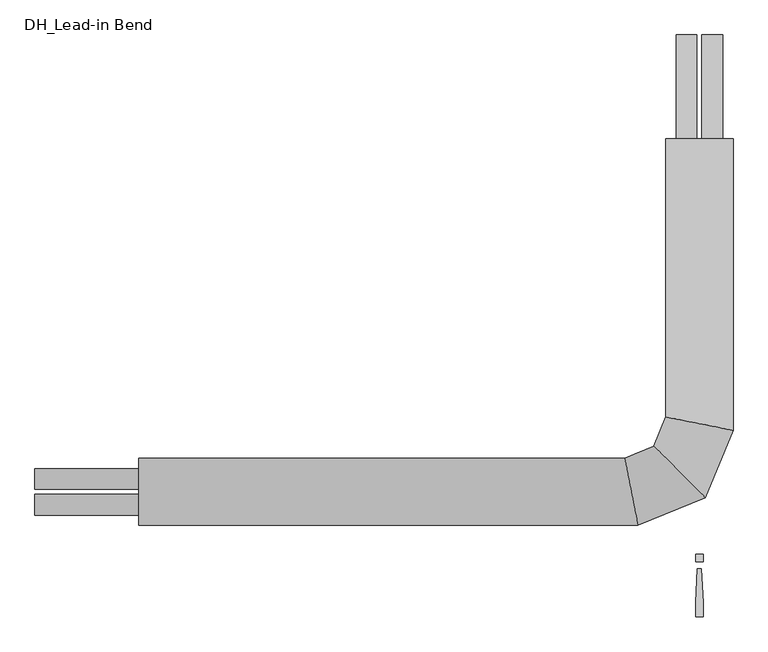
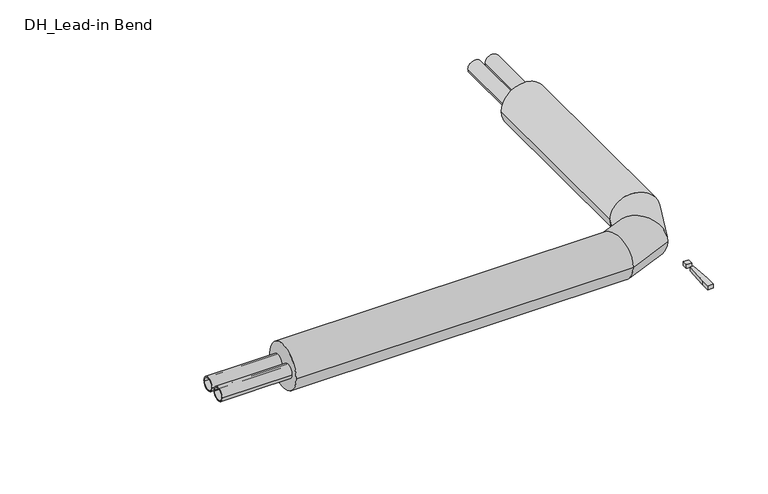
"""IFC4 building model written with IfcOpenShell, lengths in millimetres: pipe fitting geometry, DH_Lead-in Bend : RVT/RVX/RTX DUO 11 Heating Vertical."""

from ifc_helpers import new_model, si_unit, point, frame, frame_2d, origin, origin_with_axes, place, context, project, spatial, polyline, circle_curve, ellipse_curve, trimmed, segment, composite_curve, outline, extrude, source, transform, mapped, element, save
from ifc_brep_helpers import plane_surface, cylinder_surface, advanced_brep


def dh_lead_in_bend_f1abdf10(model_context):
    return source(origin(), model_context, "Body", "SolidModel", [
        extrude(outline(composite_curve([segment(trimmed(circle_curve(frame_2d((-31.0, 0.0)), 25.0), [point((-6.0, 0.0))], [point((-56.0, 0.0))], False, "CARTESIAN"), True, "CONTINUOUS"), segment(trimmed(circle_curve(frame_2d((-31.0, 0.0)), 25.0), [point((-56.0, 0.0))], [point((-6.0, 0.0))], False, "CARTESIAN"), True, "CONTINUOUS")], self_intersect=False), holes=[composite_curve([segment(trimmed(circle_curve(frame_2d((-31.0, 0.0)), 20.4), [point((-10.6, 0.0))], [point((-51.4, 0.0))], True, "CARTESIAN"), True, "CONTINUOUS"), segment(trimmed(circle_curve(frame_2d((-31.0, 0.0)), 20.4), [point((-51.4, 0.0))], [point((-10.6, 0.0))], True, "CARTESIAN"), True, "CONTINUOUS")], self_intersect=False)]), frame((-1600.0, 0.0, 0.0), z_axis=(1.0, 0.0, 0.0), x_axis=(0.0, 1.0, 0.0)), (0.0, 0.0, 1.0), 250.0),
        extrude(outline(composite_curve([segment(trimmed(circle_curve(frame_2d((0.0, -31.0)), 25.0), [point((0.0, -6.0))], [point((0.0, -56.0))], False, "CARTESIAN"), True, "CONTINUOUS"), segment(trimmed(circle_curve(frame_2d((0.0, -31.0)), 25.0), [point((0.0, -56.0))], [point((0.0, -6.0))], False, "CARTESIAN"), True, "CONTINUOUS")], self_intersect=False), holes=[composite_curve([segment(trimmed(circle_curve(frame_2d((0.0, -31.0)), 20.4), [point((0.0, -10.6))], [point((0.0, -51.4))], True, "CARTESIAN"), True, "CONTINUOUS"), segment(trimmed(circle_curve(frame_2d((0.0, -31.0)), 20.4), [point((0.0, -51.4))], [point((0.0, -10.6))], True, "CARTESIAN"), True, "CONTINUOUS")], self_intersect=False)]), frame((0.0, 850.0, 0.0), z_axis=(0.0, 1.0, 0.0), x_axis=(0.0, 0.0, 1.0)), (0.0, 0.0, 1.0), 250.0),
        advanced_brep(
        [(-1350.0, -81.0, 0.0), (-1350.0, 81.0, 0.0), (-147.9880982, -81.0, 0.0), (-180.2119018, 81.0, 0.0), (81.0, 850.0, 0.0), (-81.0, 850.0, 0.0), (-81.0, 180.2119018, 0.0), (81.0, 147.9880982, 0.0), (13.9309388, -13.9309388, 0.0), (-110.0584933, 110.0584933, 0.0)],
        [
            (0, 1, circle_curve(frame((-1350.0, 0.0, 0.0), z_axis=(-1.0, 0.0, 0.0), x_axis=(0.0, 1.0, 0.0)), 81.0)),
            (1, 0, circle_curve(frame((-1350.0, 0.0, 0.0), z_axis=(-1.0, 0.0, 0.0), x_axis=(0.0, 1.0, 0.0)), 81.0)),
            (0, 2),
            (2, 3, ellipse_curve(frame((-164.1, 0.0, 0.0), z_axis=(-0.9807852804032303, -0.19509032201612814, 0.0), x_axis=(-0.19509032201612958, 0.9807852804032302, 0.0)), 82.5868838, 81.0)),
            (3, 1),
            (3, 2, ellipse_curve(frame((-164.1, 0.0, 0.0), z_axis=(-0.9807852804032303, -0.19509032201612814, 0.0), x_axis=(-0.19509032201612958, 0.9807852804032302, 0.0)), 82.5868838, 81.0)),
            (4, 5, circle_curve(frame((0.0, 850.0, 0.0), z_axis=(0.0, 1.0, 0.0), x_axis=(-1.0, 0.0, 0.0)), 81.0)),
            (5, 4, circle_curve(frame((0.0, 850.0, 0.0), z_axis=(0.0, 1.0, 0.0), x_axis=(-1.0, 0.0, 0.0)), 81.0)),
            (6, 7, ellipse_curve(frame((0.0, 164.1, 0.0), z_axis=(0.19509032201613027, 0.9807852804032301, 0.0), x_axis=(0.9807852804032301, -0.1950903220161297, 0.0)), 82.5868838, 81.0)),
            (7, 4),
            (5, 6),
            (7, 6, ellipse_curve(frame((0.0, 164.1, 0.0), z_axis=(0.19509032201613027, 0.9807852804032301, 0.0), x_axis=(0.9807852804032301, -0.1950903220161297, 0.0)), 82.5868838, 81.0)),
            (2, 8),
            (8, 9, ellipse_curve(frame((-48.0637772, 48.0637772, 0.0), z_axis=(-0.707106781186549, -0.7071067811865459, 0.0), x_axis=(-0.7071067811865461, 0.7071067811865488, 0.0)), 87.6737682, 81.0)),
            (9, 3),
            (9, 8, ellipse_curve(frame((-48.0637772, 48.0637772, 0.0), z_axis=(-0.707106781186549, -0.7071067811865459, 0.0), x_axis=(-0.7071067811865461, 0.7071067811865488, 0.0)), 87.6737682, 81.0)),
            (8, 7),
            (6, 9),
        ],
        [
            plane_surface(frame((-1350.0, 0.0, 0.0), z_axis=(-1.0, 0.0, 0.0), x_axis=(0.0, 0.0, 1.0))),
            cylinder_surface(frame((-1350.0, 0.0, 0.0), z_axis=(-1.0, 0.0, 0.0), x_axis=(0.0, 1.0, 0.0)), 81.0),
            plane_surface(frame((0.0, 850.0, 0.0), z_axis=(0.0, 1.0, 0.0), x_axis=(0.0, 0.0, 1.0))),
            cylinder_surface(frame((0.0, 164.1, 0.0), z_axis=(0.0, -1.0, 0.0), x_axis=(-1.0, 0.0, 0.0)), 81.0),
            cylinder_surface(frame((-164.1, 0.0, 0.0), z_axis=(-0.9238795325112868, -0.3826834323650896, 0.0), x_axis=(-0.3826834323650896, 0.9238795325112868, 0.0)), 81.0),
            cylinder_surface(frame((-48.0637772, 48.0637772, 0.0), z_axis=(-0.3826834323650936, -0.9238795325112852, 0.0), x_axis=(-0.9238795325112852, 0.3826834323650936, 0.0)), 81.0),
        ],
        [
            (0, [[1, 2]]),
            (1, [[-1, 3, 4, 5]]),
            (1, [[-2, -5, 6, -3]]),
            (2, [[7, 8]]),
            (3, [[9, 10, -8, 11]]),
            (3, [[12, -11, -7, -10]]),
            (4, [[-4, 13, 14, 15]]),
            (4, [[-6, -15, 16, -13]]),
            (5, [[-14, 17, -9, 18]]),
            (5, [[-16, -18, -12, -17]]),
        ],
    ),
        extrude(outline(composite_curve([segment(trimmed(circle_curve(frame_2d((31.0, 0.0)), 25.0), [point((6.0, 0.0))], [point((56.0, 0.0))], False, "CARTESIAN"), True, "CONTINUOUS"), segment(trimmed(circle_curve(frame_2d((31.0, 0.0)), 25.0), [point((56.0, 0.0))], [point((6.0, 0.0))], False, "CARTESIAN"), True, "CONTINUOUS")], self_intersect=False), holes=[composite_curve([segment(trimmed(circle_curve(frame_2d((31.0, 0.0)), 20.4), [point((10.6, 0.0))], [point((51.4, 0.0))], True, "CARTESIAN"), True, "CONTINUOUS"), segment(trimmed(circle_curve(frame_2d((31.0, 0.0)), 20.4), [point((51.4, 0.0))], [point((10.6, 0.0))], True, "CARTESIAN"), True, "CONTINUOUS")], self_intersect=False)]), frame((-1600.0, 0.0, 0.0), z_axis=(1.0, 0.0, 0.0), x_axis=(0.0, 1.0, 0.0)), (0.0, 0.0, 1.0), 250.0),
        extrude(outline(composite_curve([segment(trimmed(circle_curve(frame_2d((0.0, 31.0)), 25.0), [point((0.0, 6.0))], [point((0.0, 56.0))], False, "CARTESIAN"), True, "CONTINUOUS"), segment(trimmed(circle_curve(frame_2d((0.0, 31.0)), 25.0), [point((0.0, 56.0))], [point((0.0, 6.0))], False, "CARTESIAN"), True, "CONTINUOUS")], self_intersect=False), holes=[composite_curve([segment(trimmed(circle_curve(frame_2d((0.0, 31.0)), 20.4), [point((0.0, 10.6))], [point((0.0, 51.4))], True, "CARTESIAN"), True, "CONTINUOUS"), segment(trimmed(circle_curve(frame_2d((0.0, 31.0)), 20.4), [point((0.0, 51.4))], [point((0.0, 10.6))], True, "CARTESIAN"), True, "CONTINUOUS")], self_intersect=False)]), frame((0.0, 850.0, 0.0), z_axis=(0.0, 1.0, 0.0), x_axis=(0.0, 0.0, 1.0)), (0.0, 0.0, 1.0), 250.0),
        extrude(outline(polyline([(4.7088895, -185.3166715), (9.4177791, -266.6553807), (9.4177791, -300.6844652), (-9.4177791, -300.6844652), (-9.4177791, -266.6553807), (-4.7088895, -185.3166715), (4.7088895, -185.3166715)])), origin_with_axes(), (0.0, 0.0, 1.0), 15.0),
        extrude(outline(polyline([(9.4177791, -150.0), (9.4177791, -168.8355582), (-9.4177791, -168.8355582), (-9.4177791, -150.0), (9.4177791, -150.0)])), origin_with_axes(), (0.0, 0.0, 1.0), 15.0),
    ])


if __name__ == "__main__":
    model = new_model("IFC4")
    model_context = context("Model", 3, world=origin())
    ifc_project = project(units=[si_unit("LENGTHUNIT", "METRE", prefix="MILLI")], contexts=[model_context])
    site = spatial("IfcSite", under=ifc_project)
    building = spatial("IfcBuilding", under=site)
    placement = place(None, origin())
    dh_lead_in_bend_shape = dh_lead_in_bend_f1abdf10(model_context)
    element("IfcPipeFitting", 1, ObjectType="DH_Lead-in Bend : RVT/RVX/RTX DUO 11 Heating Vertical", at=placement, inside=building, context=model_context, shape_type="MappedRepresentation", body=[
        mapped(dh_lead_in_bend_shape, transform((0.0, 0.0, 0.0), x_axis=(1.0, 0.0, 0.0), y_axis=(0.0, 1.0, 0.0), z_axis=(0.0, 0.0, 1.0))),
    ])
    save(model, "model.ifc")
